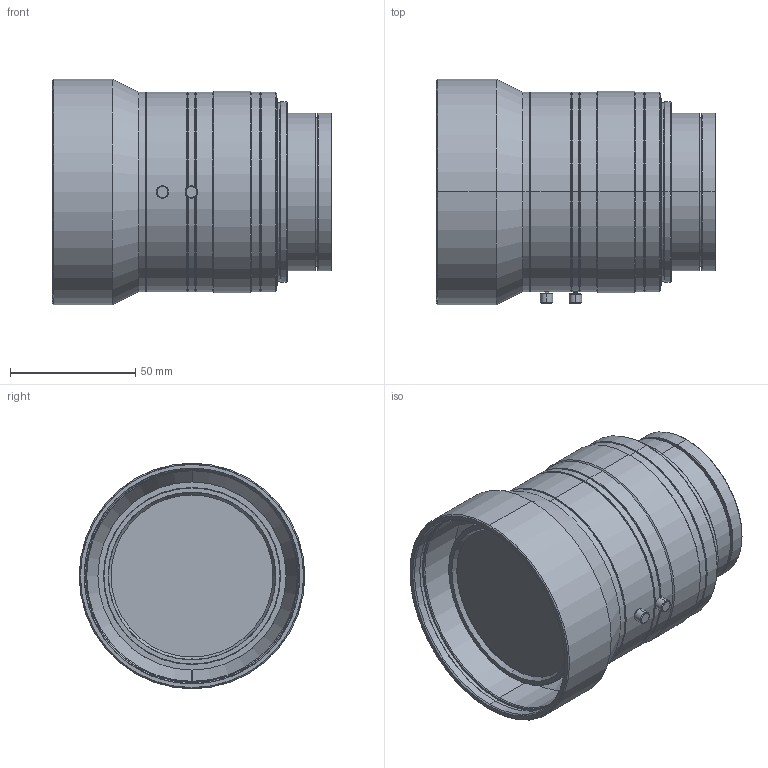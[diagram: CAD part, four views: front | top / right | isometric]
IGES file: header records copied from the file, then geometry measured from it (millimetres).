
Start section: SolidWorks IGES file using analytic representation for surfaces
Global section: file name: C:\Users\sugiyama_vst\Desktop\VS-L5045FL_M72S.IGS; native system: SolidWorks 2017; preprocessor: SolidWorks 2017; author: sugiyama_vst; date: 200206.100959; units: millimetre
Bounding box: 111.46 x 90 x 90 mm (x, y, z)
Surface area: 58092.1 mm2 (no closed solid volume)
Topology: 0 solids, 0 shells, 198 faces, 4120 edges, 4119 vertices
Faces by surface type: revolution 166, bspline 32
